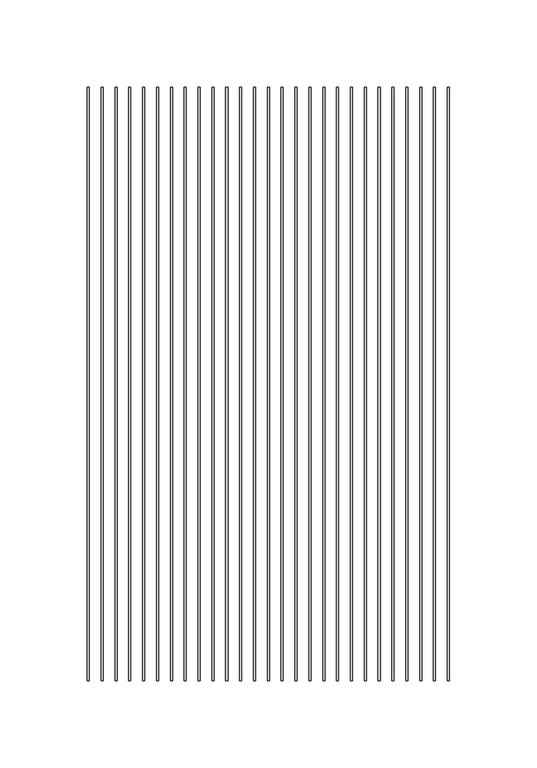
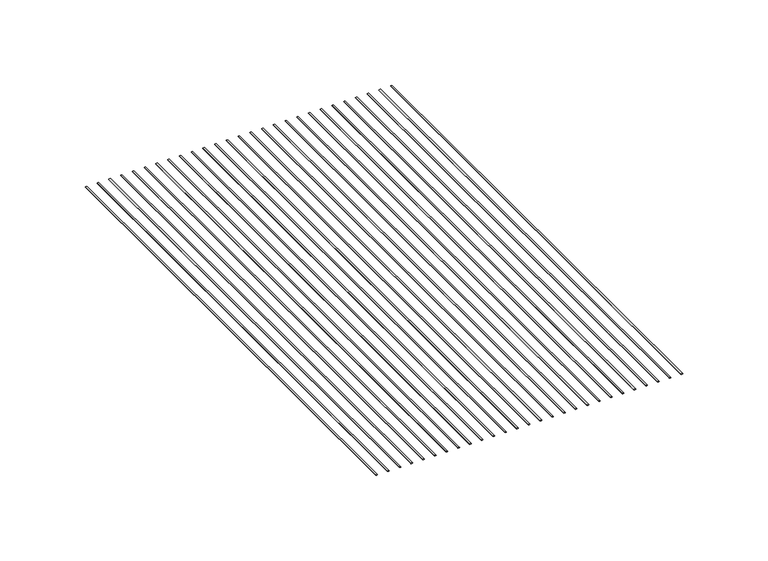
"""IFC4 building model written with IfcOpenShell, lengths in millimetres: proxy geometry, CRAi Generic Model Mesh Piece Face Based : Wider Mesh."""

from ifc_helpers import new_model, si_unit, point, frame, origin, place, context, project, spatial, ellipse_curve, trimmed, source, transform, mapped, element, save
from ifc_brep_helpers import plane_surface, extruded_surface, advanced_brep


def generic_models_b9febd00(model_context):
    return source(origin(), model_context, "Body", "AdvancedBrep", [
        advanced_brep(
        [(-209.3515625, -169.8625, -2.5796875), (-208.1609375, -169.8625, -2.5796875), (-209.3515625, 169.8625, -2.5796875), (-208.1609375, 169.8625, -2.5796875)],
        [
            (0, 1, ellipse_curve(frame((-208.75625, -169.8625, -2.5796875), z_axis=(0.0, -1.0, 0.0), x_axis=(1.0, 0.0, 0.0)), 0.5953125, 0.1984375)),
            (1, 0, ellipse_curve(frame((-208.75625, -169.8625, -2.5796875), z_axis=(0.0, -1.0, 0.0), x_axis=(1.0, 0.0, 0.0)), 0.5953125, 0.1984375)),
            (2, 3, ellipse_curve(frame((-208.75625, 169.8625, -2.5796875), z_axis=(0.0, 1.0, 0.0), x_axis=(1.0, 0.0, 0.0)), 0.5953125, 0.1984375)),
            (3, 2, ellipse_curve(frame((-208.75625, 169.8625, -2.5796875), z_axis=(0.0, 1.0, 0.0), x_axis=(1.0, 0.0, 0.0)), 0.5953125, 0.1984375)),
            (0, 2),
            (3, 1),
        ],
        [
            plane_surface(frame((-208.75625, -169.8625, -2.5796875), z_axis=(0.0, -1.0, 0.0), x_axis=(0.0, 0.0, 1.0))),
            plane_surface(frame((-208.75625, 169.8625, -2.5796875), z_axis=(0.0, 1.0, 0.0), x_axis=(0.0, 0.0, 1.0))),
            extruded_surface(trimmed(ellipse_curve(frame((-208.75625, 169.8625, -2.5796875), z_axis=(0.0, -1.0, 0.0), x_axis=(1.0, 0.0, 0.0)), 0.5953125, 0.1984375), [point((-209.3515625, 169.8625, -2.5796875))], [point((-208.1609375, 169.8625, -2.5796875))], True, "CARTESIAN"), (0.0, -339.725, 0.0), 339.725),
            extruded_surface(trimmed(ellipse_curve(frame((-208.75625, 169.8625, -2.5796875), z_axis=(0.0, -1.0, 0.0), x_axis=(1.0, 0.0, 0.0)), 0.5953125, 0.1984375), [point((-208.1609375, 169.8625, -2.5796875))], [point((-209.3515625, 169.8625, -2.5796875))], True, "CARTESIAN"), (0.0, -339.725, 0.0), 339.725),
        ],
        [
            (0, [[1, 2]]),
            (1, [[3, 4]]),
            (2, [[-1, 5, -4, 6]]),
            (3, [[-2, -6, -3, -5]]),
        ],
    ),
        advanced_brep(
        [(-201.4140625, -169.8625, -2.5796875), (-200.2234375, -169.8625, -2.5796875), (-201.4140625, 169.8625, -2.5796875), (-200.2234375, 169.8625, -2.5796875)],
        [
            (0, 1, ellipse_curve(frame((-200.81875, -169.8625, -2.5796875), z_axis=(0.0, -1.0, 0.0), x_axis=(1.0, 0.0, 0.0)), 0.5953125, 0.1984375)),
            (1, 0, ellipse_curve(frame((-200.81875, -169.8625, -2.5796875), z_axis=(0.0, -1.0, 0.0), x_axis=(1.0, 0.0, 0.0)), 0.5953125, 0.1984375)),
            (2, 3, ellipse_curve(frame((-200.81875, 169.8625, -2.5796875), z_axis=(0.0, 1.0, 0.0), x_axis=(1.0, 0.0, 0.0)), 0.5953125, 0.1984375)),
            (3, 2, ellipse_curve(frame((-200.81875, 169.8625, -2.5796875), z_axis=(0.0, 1.0, 0.0), x_axis=(1.0, 0.0, 0.0)), 0.5953125, 0.1984375)),
            (0, 2),
            (3, 1),
        ],
        [
            plane_surface(frame((-200.81875, -169.8625, -2.5796875), z_axis=(0.0, -1.0, 0.0), x_axis=(0.0, 0.0, 1.0))),
            plane_surface(frame((-200.81875, 169.8625, -2.5796875), z_axis=(0.0, 1.0, 0.0), x_axis=(0.0, 0.0, 1.0))),
            extruded_surface(trimmed(ellipse_curve(frame((-200.81875, 169.8625, -2.5796875), z_axis=(0.0, -1.0, 0.0), x_axis=(1.0, 0.0, 0.0)), 0.5953125, 0.1984375), [point((-201.4140625, 169.8625, -2.5796875))], [point((-200.2234375, 169.8625, -2.5796875))], True, "CARTESIAN"), (0.0, -339.725, 0.0), 339.725),
            extruded_surface(trimmed(ellipse_curve(frame((-200.81875, 169.8625, -2.5796875), z_axis=(0.0, -1.0, 0.0), x_axis=(1.0, 0.0, 0.0)), 0.5953125, 0.1984375), [point((-200.2234375, 169.8625, -2.5796875))], [point((-201.4140625, 169.8625, -2.5796875))], True, "CARTESIAN"), (0.0, -339.725, 0.0), 339.725),
        ],
        [
            (0, [[1, 2]]),
            (1, [[3, 4]]),
            (2, [[-1, 5, -4, 6]]),
            (3, [[-2, -6, -3, -5]]),
        ],
    ),
        advanced_brep(
        [(-193.4765625, -169.8625, -2.5796875), (-192.2859375, -169.8625, -2.5796875), (-193.4765625, 169.8625, -2.5796875), (-192.2859375, 169.8625, -2.5796875)],
        [
            (0, 1, ellipse_curve(frame((-192.88125, -169.8625, -2.5796875), z_axis=(0.0, -1.0, 0.0), x_axis=(1.0, 0.0, 0.0)), 0.5953125, 0.1984375)),
            (1, 0, ellipse_curve(frame((-192.88125, -169.8625, -2.5796875), z_axis=(0.0, -1.0, 0.0), x_axis=(1.0, 0.0, 0.0)), 0.5953125, 0.1984375)),
            (2, 3, ellipse_curve(frame((-192.88125, 169.8625, -2.5796875), z_axis=(0.0, 1.0, 0.0), x_axis=(1.0, 0.0, 0.0)), 0.5953125, 0.1984375)),
            (3, 2, ellipse_curve(frame((-192.88125, 169.8625, -2.5796875), z_axis=(0.0, 1.0, 0.0), x_axis=(1.0, 0.0, 0.0)), 0.5953125, 0.1984375)),
            (0, 2),
            (3, 1),
        ],
        [
            plane_surface(frame((-192.88125, -169.8625, -2.5796875), z_axis=(0.0, -1.0, 0.0), x_axis=(0.0, 0.0, 1.0))),
            plane_surface(frame((-192.88125, 169.8625, -2.5796875), z_axis=(0.0, 1.0, 0.0), x_axis=(0.0, 0.0, 1.0))),
            extruded_surface(trimmed(ellipse_curve(frame((-192.88125, 169.8625, -2.5796875), z_axis=(0.0, -1.0, 0.0), x_axis=(1.0, 0.0, 0.0)), 0.5953125, 0.1984375), [point((-193.4765625, 169.8625, -2.5796875))], [point((-192.2859375, 169.8625, -2.5796875))], True, "CARTESIAN"), (0.0, -339.725, 0.0), 339.725),
            extruded_surface(trimmed(ellipse_curve(frame((-192.88125, 169.8625, -2.5796875), z_axis=(0.0, -1.0, 0.0), x_axis=(1.0, 0.0, 0.0)), 0.5953125, 0.1984375), [point((-192.2859375, 169.8625, -2.5796875))], [point((-193.4765625, 169.8625, -2.5796875))], True, "CARTESIAN"), (0.0, -339.725, 0.0), 339.725),
        ],
        [
            (0, [[1, 2]]),
            (1, [[3, 4]]),
            (2, [[-1, 5, -4, 6]]),
            (3, [[-2, -6, -3, -5]]),
        ],
    ),
        advanced_brep(
        [(-185.5390625, -169.8625, -2.5796875), (-184.3484375, -169.8625, -2.5796875), (-185.5390625, 169.8625, -2.5796875), (-184.3484375, 169.8625, -2.5796875)],
        [
            (0, 1, ellipse_curve(frame((-184.94375, -169.8625, -2.5796875), z_axis=(0.0, -1.0, 0.0), x_axis=(1.0, 0.0, 0.0)), 0.5953125, 0.1984375)),
            (1, 0, ellipse_curve(frame((-184.94375, -169.8625, -2.5796875), z_axis=(0.0, -1.0, 0.0), x_axis=(1.0, 0.0, 0.0)), 0.5953125, 0.1984375)),
            (2, 3, ellipse_curve(frame((-184.94375, 169.8625, -2.5796875), z_axis=(0.0, 1.0, 0.0), x_axis=(1.0, 0.0, 0.0)), 0.5953125, 0.1984375)),
            (3, 2, ellipse_curve(frame((-184.94375, 169.8625, -2.5796875), z_axis=(0.0, 1.0, 0.0), x_axis=(1.0, 0.0, 0.0)), 0.5953125, 0.1984375)),
            (0, 2),
            (3, 1),
        ],
        [
            plane_surface(frame((-184.94375, -169.8625, -2.5796875), z_axis=(0.0, -1.0, 0.0), x_axis=(0.0, 0.0, 1.0))),
            plane_surface(frame((-184.94375, 169.8625, -2.5796875), z_axis=(0.0, 1.0, 0.0), x_axis=(0.0, 0.0, 1.0))),
            extruded_surface(trimmed(ellipse_curve(frame((-184.94375, 169.8625, -2.5796875), z_axis=(0.0, -1.0, 0.0), x_axis=(1.0, 0.0, 0.0)), 0.5953125, 0.1984375), [point((-185.5390625, 169.8625, -2.5796875))], [point((-184.3484375, 169.8625, -2.5796875))], True, "CARTESIAN"), (0.0, -339.725, 0.0), 339.725),
            extruded_surface(trimmed(ellipse_curve(frame((-184.94375, 169.8625, -2.5796875), z_axis=(0.0, -1.0, 0.0), x_axis=(1.0, 0.0, 0.0)), 0.5953125, 0.1984375), [point((-184.3484375, 169.8625, -2.5796875))], [point((-185.5390625, 169.8625, -2.5796875))], True, "CARTESIAN"), (0.0, -339.725, 0.0), 339.725),
        ],
        [
            (0, [[1, 2]]),
            (1, [[3, 4]]),
            (2, [[-1, 5, -4, 6]]),
            (3, [[-2, -6, -3, -5]]),
        ],
    ),
        advanced_brep(
        [(-177.6015625, -169.8625, -2.5796875), (-176.4109375, -169.8625, -2.5796875), (-177.6015625, 169.8625, -2.5796875), (-176.4109375, 169.8625, -2.5796875)],
        [
            (0, 1, ellipse_curve(frame((-177.00625, -169.8625, -2.5796875), z_axis=(0.0, -1.0, 0.0), x_axis=(1.0, 0.0, 0.0)), 0.5953125, 0.1984375)),
            (1, 0, ellipse_curve(frame((-177.00625, -169.8625, -2.5796875), z_axis=(0.0, -1.0, 0.0), x_axis=(1.0, 0.0, 0.0)), 0.5953125, 0.1984375)),
            (2, 3, ellipse_curve(frame((-177.00625, 169.8625, -2.5796875), z_axis=(0.0, 1.0, 0.0), x_axis=(1.0, 0.0, 0.0)), 0.5953125, 0.1984375)),
            (3, 2, ellipse_curve(frame((-177.00625, 169.8625, -2.5796875), z_axis=(0.0, 1.0, 0.0), x_axis=(1.0, 0.0, 0.0)), 0.5953125, 0.1984375)),
            (0, 2),
            (3, 1),
        ],
        [
            plane_surface(frame((-177.00625, -169.8625, -2.5796875), z_axis=(0.0, -1.0, 0.0), x_axis=(0.0, 0.0, 1.0))),
            plane_surface(frame((-177.00625, 169.8625, -2.5796875), z_axis=(0.0, 1.0, 0.0), x_axis=(0.0, 0.0, 1.0))),
            extruded_surface(trimmed(ellipse_curve(frame((-177.00625, 169.8625, -2.5796875), z_axis=(0.0, -1.0, 0.0), x_axis=(1.0, 0.0, 0.0)), 0.5953125, 0.1984375), [point((-177.6015625, 169.8625, -2.5796875))], [point((-176.4109375, 169.8625, -2.5796875))], True, "CARTESIAN"), (0.0, -339.725, 0.0), 339.725),
            extruded_surface(trimmed(ellipse_curve(frame((-177.00625, 169.8625, -2.5796875), z_axis=(0.0, -1.0, 0.0), x_axis=(1.0, 0.0, 0.0)), 0.5953125, 0.1984375), [point((-176.4109375, 169.8625, -2.5796875))], [point((-177.6015625, 169.8625, -2.5796875))], True, "CARTESIAN"), (0.0, -339.725, 0.0), 339.725),
        ],
        [
            (0, [[1, 2]]),
            (1, [[3, 4]]),
            (2, [[-1, 5, -4, 6]]),
            (3, [[-2, -6, -3, -5]]),
        ],
    ),
        advanced_brep(
        [(-169.6640625, -169.8625, -2.5796875), (-168.4734375, -169.8625, -2.5796875), (-169.6640625, 169.8625, -2.5796875), (-168.4734375, 169.8625, -2.5796875)],
        [
            (0, 1, ellipse_curve(frame((-169.06875, -169.8625, -2.5796875), z_axis=(0.0, -1.0, 0.0), x_axis=(1.0, 0.0, 0.0)), 0.5953125, 0.1984375)),
            (1, 0, ellipse_curve(frame((-169.06875, -169.8625, -2.5796875), z_axis=(0.0, -1.0, 0.0), x_axis=(1.0, 0.0, 0.0)), 0.5953125, 0.1984375)),
            (2, 3, ellipse_curve(frame((-169.06875, 169.8625, -2.5796875), z_axis=(0.0, 1.0, 0.0), x_axis=(1.0, 0.0, 0.0)), 0.5953125, 0.1984375)),
            (3, 2, ellipse_curve(frame((-169.06875, 169.8625, -2.5796875), z_axis=(0.0, 1.0, 0.0), x_axis=(1.0, 0.0, 0.0)), 0.5953125, 0.1984375)),
            (0, 2),
            (3, 1),
        ],
        [
            plane_surface(frame((-169.06875, -169.8625, -2.5796875), z_axis=(0.0, -1.0, 0.0), x_axis=(0.0, 0.0, 1.0))),
            plane_surface(frame((-169.06875, 169.8625, -2.5796875), z_axis=(0.0, 1.0, 0.0), x_axis=(0.0, 0.0, 1.0))),
            extruded_surface(trimmed(ellipse_curve(frame((-169.06875, 169.8625, -2.5796875), z_axis=(0.0, -1.0, 0.0), x_axis=(1.0, 0.0, 0.0)), 0.5953125, 0.1984375), [point((-169.6640625, 169.8625, -2.5796875))], [point((-168.4734375, 169.8625, -2.5796875))], True, "CARTESIAN"), (0.0, -339.725, 0.0), 339.725),
            extruded_surface(trimmed(ellipse_curve(frame((-169.06875, 169.8625, -2.5796875), z_axis=(0.0, -1.0, 0.0), x_axis=(1.0, 0.0, 0.0)), 0.5953125, 0.1984375), [point((-168.4734375, 169.8625, -2.5796875))], [point((-169.6640625, 169.8625, -2.5796875))], True, "CARTESIAN"), (0.0, -339.725, 0.0), 339.725),
        ],
        [
            (0, [[1, 2]]),
            (1, [[3, 4]]),
            (2, [[-1, 5, -4, 6]]),
            (3, [[-2, -6, -3, -5]]),
        ],
    ),
        advanced_brep(
        [(-161.7265625, -169.8625, -2.5796875), (-160.5359375, -169.8625, -2.5796875), (-161.7265625, 169.8625, -2.5796875), (-160.5359375, 169.8625, -2.5796875)],
        [
            (0, 1, ellipse_curve(frame((-161.13125, -169.8625, -2.5796875), z_axis=(0.0, -1.0, 0.0), x_axis=(1.0, 0.0, 0.0)), 0.5953125, 0.1984375)),
            (1, 0, ellipse_curve(frame((-161.13125, -169.8625, -2.5796875), z_axis=(0.0, -1.0, 0.0), x_axis=(1.0, 0.0, 0.0)), 0.5953125, 0.1984375)),
            (2, 3, ellipse_curve(frame((-161.13125, 169.8625, -2.5796875), z_axis=(0.0, 1.0, 0.0), x_axis=(1.0, 0.0, 0.0)), 0.5953125, 0.1984375)),
            (3, 2, ellipse_curve(frame((-161.13125, 169.8625, -2.5796875), z_axis=(0.0, 1.0, 0.0), x_axis=(1.0, 0.0, 0.0)), 0.5953125, 0.1984375)),
            (0, 2),
            (3, 1),
        ],
        [
            plane_surface(frame((-161.13125, -169.8625, -2.5796875), z_axis=(0.0, -1.0, 0.0), x_axis=(0.0, 0.0, 1.0))),
            plane_surface(frame((-161.13125, 169.8625, -2.5796875), z_axis=(0.0, 1.0, 0.0), x_axis=(0.0, 0.0, 1.0))),
            extruded_surface(trimmed(ellipse_curve(frame((-161.13125, 169.8625, -2.5796875), z_axis=(0.0, -1.0, 0.0), x_axis=(1.0, 0.0, 0.0)), 0.5953125, 0.1984375), [point((-161.7265625, 169.8625, -2.5796875))], [point((-160.5359375, 169.8625, -2.5796875))], True, "CARTESIAN"), (0.0, -339.725, 0.0), 339.725),
            extruded_surface(trimmed(ellipse_curve(frame((-161.13125, 169.8625, -2.5796875), z_axis=(0.0, -1.0, 0.0), x_axis=(1.0, 0.0, 0.0)), 0.5953125, 0.1984375), [point((-160.5359375, 169.8625, -2.5796875))], [point((-161.7265625, 169.8625, -2.5796875))], True, "CARTESIAN"), (0.0, -339.725, 0.0), 339.725),
        ],
        [
            (0, [[1, 2]]),
            (1, [[3, 4]]),
            (2, [[-1, 5, -4, 6]]),
            (3, [[-2, -6, -3, -5]]),
        ],
    ),
        advanced_brep(
        [(-153.7890625, -169.8625, -2.5796875), (-152.5984375, -169.8625, -2.5796875), (-153.7890625, 169.8625, -2.5796875), (-152.5984375, 169.8625, -2.5796875)],
        [
            (0, 1, ellipse_curve(frame((-153.19375, -169.8625, -2.5796875), z_axis=(0.0, -1.0, 0.0), x_axis=(1.0, 0.0, 0.0)), 0.5953125, 0.1984375)),
            (1, 0, ellipse_curve(frame((-153.19375, -169.8625, -2.5796875), z_axis=(0.0, -1.0, 0.0), x_axis=(1.0, 0.0, 0.0)), 0.5953125, 0.1984375)),
            (2, 3, ellipse_curve(frame((-153.19375, 169.8625, -2.5796875), z_axis=(0.0, 1.0, 0.0), x_axis=(1.0, 0.0, 0.0)), 0.5953125, 0.1984375)),
            (3, 2, ellipse_curve(frame((-153.19375, 169.8625, -2.5796875), z_axis=(0.0, 1.0, 0.0), x_axis=(1.0, 0.0, 0.0)), 0.5953125, 0.1984375)),
            (0, 2),
            (3, 1),
        ],
        [
            plane_surface(frame((-153.19375, -169.8625, -2.5796875), z_axis=(0.0, -1.0, 0.0), x_axis=(0.0, 0.0, 1.0))),
            plane_surface(frame((-153.19375, 169.8625, -2.5796875), z_axis=(0.0, 1.0, 0.0), x_axis=(0.0, 0.0, 1.0))),
            extruded_surface(trimmed(ellipse_curve(frame((-153.19375, 169.8625, -2.5796875), z_axis=(0.0, -1.0, 0.0), x_axis=(1.0, 0.0, 0.0)), 0.5953125, 0.1984375), [point((-153.7890625, 169.8625, -2.5796875))], [point((-152.5984375, 169.8625, -2.5796875))], True, "CARTESIAN"), (0.0, -339.725, 0.0), 339.725),
            extruded_surface(trimmed(ellipse_curve(frame((-153.19375, 169.8625, -2.5796875), z_axis=(0.0, -1.0, 0.0), x_axis=(1.0, 0.0, 0.0)), 0.5953125, 0.1984375), [point((-152.5984375, 169.8625, -2.5796875))], [point((-153.7890625, 169.8625, -2.5796875))], True, "CARTESIAN"), (0.0, -339.725, 0.0), 339.725),
        ],
        [
            (0, [[1, 2]]),
            (1, [[3, 4]]),
            (2, [[-1, 5, -4, 6]]),
            (3, [[-2, -6, -3, -5]]),
        ],
    ),
        advanced_brep(
        [(-145.8515625, -169.8625, -2.5796875), (-144.6609375, -169.8625, -2.5796875), (-145.8515625, 169.8625, -2.5796875), (-144.6609375, 169.8625, -2.5796875)],
        [
            (0, 1, ellipse_curve(frame((-145.25625, -169.8625, -2.5796875), z_axis=(0.0, -1.0, 0.0), x_axis=(1.0, 0.0, 0.0)), 0.5953125, 0.1984375)),
            (1, 0, ellipse_curve(frame((-145.25625, -169.8625, -2.5796875), z_axis=(0.0, -1.0, 0.0), x_axis=(1.0, 0.0, 0.0)), 0.5953125, 0.1984375)),
            (2, 3, ellipse_curve(frame((-145.25625, 169.8625, -2.5796875), z_axis=(0.0, 1.0, 0.0), x_axis=(1.0, 0.0, 0.0)), 0.5953125, 0.1984375)),
            (3, 2, ellipse_curve(frame((-145.25625, 169.8625, -2.5796875), z_axis=(0.0, 1.0, 0.0), x_axis=(1.0, 0.0, 0.0)), 0.5953125, 0.1984375)),
            (0, 2),
            (3, 1),
        ],
        [
            plane_surface(frame((-145.25625, -169.8625, -2.5796875), z_axis=(0.0, -1.0, 0.0), x_axis=(0.0, 0.0, 1.0))),
            plane_surface(frame((-145.25625, 169.8625, -2.5796875), z_axis=(0.0, 1.0, 0.0), x_axis=(0.0, 0.0, 1.0))),
            extruded_surface(trimmed(ellipse_curve(frame((-145.25625, 169.8625, -2.5796875), z_axis=(0.0, -1.0, 0.0), x_axis=(1.0, 0.0, 0.0)), 0.5953125, 0.1984375), [point((-145.8515625, 169.8625, -2.5796875))], [point((-144.6609375, 169.8625, -2.5796875))], True, "CARTESIAN"), (0.0, -339.725, 0.0), 339.725),
            extruded_surface(trimmed(ellipse_curve(frame((-145.25625, 169.8625, -2.5796875), z_axis=(0.0, -1.0, 0.0), x_axis=(1.0, 0.0, 0.0)), 0.5953125, 0.1984375), [point((-144.6609375, 169.8625, -2.5796875))], [point((-145.8515625, 169.8625, -2.5796875))], True, "CARTESIAN"), (0.0, -339.725, 0.0), 339.725),
        ],
        [
            (0, [[1, 2]]),
            (1, [[3, 4]]),
            (2, [[-1, 5, -4, 6]]),
            (3, [[-2, -6, -3, -5]]),
        ],
    ),
        advanced_brep(
        [(-137.9140625, -169.8625, -2.5796875), (-136.7234375, -169.8625, -2.5796875), (-137.9140625, 169.8625, -2.5796875), (-136.7234375, 169.8625, -2.5796875)],
        [
            (0, 1, ellipse_curve(frame((-137.31875, -169.8625, -2.5796875), z_axis=(0.0, -1.0, 0.0), x_axis=(1.0, 0.0, 0.0)), 0.5953125, 0.1984375)),
            (1, 0, ellipse_curve(frame((-137.31875, -169.8625, -2.5796875), z_axis=(0.0, -1.0, 0.0), x_axis=(1.0, 0.0, 0.0)), 0.5953125, 0.1984375)),
            (2, 3, ellipse_curve(frame((-137.31875, 169.8625, -2.5796875), z_axis=(0.0, 1.0, 0.0), x_axis=(1.0, 0.0, 0.0)), 0.5953125, 0.1984375)),
            (3, 2, ellipse_curve(frame((-137.31875, 169.8625, -2.5796875), z_axis=(0.0, 1.0, 0.0), x_axis=(1.0, 0.0, 0.0)), 0.5953125, 0.1984375)),
            (0, 2),
            (3, 1),
        ],
        [
            plane_surface(frame((-137.31875, -169.8625, -2.5796875), z_axis=(0.0, -1.0, 0.0), x_axis=(0.0, 0.0, 1.0))),
            plane_surface(frame((-137.31875, 169.8625, -2.5796875), z_axis=(0.0, 1.0, 0.0), x_axis=(0.0, 0.0, 1.0))),
            extruded_surface(trimmed(ellipse_curve(frame((-137.31875, 169.8625, -2.5796875), z_axis=(0.0, -1.0, 0.0), x_axis=(1.0, 0.0, 0.0)), 0.5953125, 0.1984375), [point((-137.9140625, 169.8625, -2.5796875))], [point((-136.7234375, 169.8625, -2.5796875))], True, "CARTESIAN"), (0.0, -339.725, 0.0), 339.725),
            extruded_surface(trimmed(ellipse_curve(frame((-137.31875, 169.8625, -2.5796875), z_axis=(0.0, -1.0, 0.0), x_axis=(1.0, 0.0, 0.0)), 0.5953125, 0.1984375), [point((-136.7234375, 169.8625, -2.5796875))], [point((-137.9140625, 169.8625, -2.5796875))], True, "CARTESIAN"), (0.0, -339.725, 0.0), 339.725),
        ],
        [
            (0, [[1, 2]]),
            (1, [[3, 4]]),
            (2, [[-1, 5, -4, 6]]),
            (3, [[-2, -6, -3, -5]]),
        ],
    ),
        advanced_brep(
        [(-129.9765625, -169.8625, -2.5796875), (-128.7859375, -169.8625, -2.5796875), (-129.9765625, 169.8625, -2.5796875), (-128.7859375, 169.8625, -2.5796875)],
        [
            (0, 1, ellipse_curve(frame((-129.38125, -169.8625, -2.5796875), z_axis=(0.0, -1.0, 0.0), x_axis=(1.0, 0.0, 0.0)), 0.5953125, 0.1984375)),
            (1, 0, ellipse_curve(frame((-129.38125, -169.8625, -2.5796875), z_axis=(0.0, -1.0, 0.0), x_axis=(1.0, 0.0, 0.0)), 0.5953125, 0.1984375)),
            (2, 3, ellipse_curve(frame((-129.38125, 169.8625, -2.5796875), z_axis=(0.0, 1.0, 0.0), x_axis=(1.0, 0.0, 0.0)), 0.5953125, 0.1984375)),
            (3, 2, ellipse_curve(frame((-129.38125, 169.8625, -2.5796875), z_axis=(0.0, 1.0, 0.0), x_axis=(1.0, 0.0, 0.0)), 0.5953125, 0.1984375)),
            (0, 2),
            (3, 1),
        ],
        [
            plane_surface(frame((-129.38125, -169.8625, -2.5796875), z_axis=(0.0, -1.0, 0.0), x_axis=(0.0, 0.0, 1.0))),
            plane_surface(frame((-129.38125, 169.8625, -2.5796875), z_axis=(0.0, 1.0, 0.0), x_axis=(0.0, 0.0, 1.0))),
            extruded_surface(trimmed(ellipse_curve(frame((-129.38125, 169.8625, -2.5796875), z_axis=(0.0, -1.0, 0.0), x_axis=(1.0, 0.0, 0.0)), 0.5953125, 0.1984375), [point((-129.9765625, 169.8625, -2.5796875))], [point((-128.7859375, 169.8625, -2.5796875))], True, "CARTESIAN"), (0.0, -339.725, 0.0), 339.725),
            extruded_surface(trimmed(ellipse_curve(frame((-129.38125, 169.8625, -2.5796875), z_axis=(0.0, -1.0, 0.0), x_axis=(1.0, 0.0, 0.0)), 0.5953125, 0.1984375), [point((-128.7859375, 169.8625, -2.5796875))], [point((-129.9765625, 169.8625, -2.5796875))], True, "CARTESIAN"), (0.0, -339.725, 0.0), 339.725),
        ],
        [
            (0, [[1, 2]]),
            (1, [[3, 4]]),
            (2, [[-1, 5, -4, 6]]),
            (3, [[-2, -6, -3, -5]]),
        ],
    ),
        advanced_brep(
        [(-122.0390625, -169.8625, -2.5796875), (-120.8484375, -169.8625, -2.5796875), (-122.0390625, 169.8625, -2.5796875), (-120.8484375, 169.8625, -2.5796875)],
        [
            (0, 1, ellipse_curve(frame((-121.44375, -169.8625, -2.5796875), z_axis=(0.0, -1.0, 0.0), x_axis=(1.0, 0.0, 0.0)), 0.5953125, 0.1984375)),
            (1, 0, ellipse_curve(frame((-121.44375, -169.8625, -2.5796875), z_axis=(0.0, -1.0, 0.0), x_axis=(1.0, 0.0, 0.0)), 0.5953125, 0.1984375)),
            (2, 3, ellipse_curve(frame((-121.44375, 169.8625, -2.5796875), z_axis=(0.0, 1.0, 0.0), x_axis=(1.0, 0.0, 0.0)), 0.5953125, 0.1984375)),
            (3, 2, ellipse_curve(frame((-121.44375, 169.8625, -2.5796875), z_axis=(0.0, 1.0, 0.0), x_axis=(1.0, 0.0, 0.0)), 0.5953125, 0.1984375)),
            (0, 2),
            (3, 1),
        ],
        [
            plane_surface(frame((-121.44375, -169.8625, -2.5796875), z_axis=(0.0, -1.0, 0.0), x_axis=(0.0, 0.0, 1.0))),
            plane_surface(frame((-121.44375, 169.8625, -2.5796875), z_axis=(0.0, 1.0, 0.0), x_axis=(0.0, 0.0, 1.0))),
            extruded_surface(trimmed(ellipse_curve(frame((-121.44375, 169.8625, -2.5796875), z_axis=(0.0, -1.0, 0.0), x_axis=(1.0, 0.0, 0.0)), 0.5953125, 0.1984375), [point((-122.0390625, 169.8625, -2.5796875))], [point((-120.8484375, 169.8625, -2.5796875))], True, "CARTESIAN"), (0.0, -339.725, 0.0), 339.725),
            extruded_surface(trimmed(ellipse_curve(frame((-121.44375, 169.8625, -2.5796875), z_axis=(0.0, -1.0, 0.0), x_axis=(1.0, 0.0, 0.0)), 0.5953125, 0.1984375), [point((-120.8484375, 169.8625, -2.5796875))], [point((-122.0390625, 169.8625, -2.5796875))], True, "CARTESIAN"), (0.0, -339.725, 0.0), 339.725),
        ],
        [
            (0, [[1, 2]]),
            (1, [[3, 4]]),
            (2, [[-1, 5, -4, 6]]),
            (3, [[-2, -6, -3, -5]]),
        ],
    ),
        advanced_brep(
        [(-114.1015625, -169.8625, -2.5796875), (-112.9109375, -169.8625, -2.5796875), (-114.1015625, 169.8625, -2.5796875), (-112.9109375, 169.8625, -2.5796875)],
        [
            (0, 1, ellipse_curve(frame((-113.50625, -169.8625, -2.5796875), z_axis=(0.0, -1.0, 0.0), x_axis=(1.0, 0.0, 0.0)), 0.5953125, 0.1984375)),
            (1, 0, ellipse_curve(frame((-113.50625, -169.8625, -2.5796875), z_axis=(0.0, -1.0, 0.0), x_axis=(1.0, 0.0, 0.0)), 0.5953125, 0.1984375)),
            (2, 3, ellipse_curve(frame((-113.50625, 169.8625, -2.5796875), z_axis=(0.0, 1.0, 0.0), x_axis=(1.0, 0.0, 0.0)), 0.5953125, 0.1984375)),
            (3, 2, ellipse_curve(frame((-113.50625, 169.8625, -2.5796875), z_axis=(0.0, 1.0, 0.0), x_axis=(1.0, 0.0, 0.0)), 0.5953125, 0.1984375)),
            (0, 2),
            (3, 1),
        ],
        [
            plane_surface(frame((-113.50625, -169.8625, -2.5796875), z_axis=(0.0, -1.0, 0.0), x_axis=(0.0, 0.0, 1.0))),
            plane_surface(frame((-113.50625, 169.8625, -2.5796875), z_axis=(0.0, 1.0, 0.0), x_axis=(0.0, 0.0, 1.0))),
            extruded_surface(trimmed(ellipse_curve(frame((-113.50625, 169.8625, -2.5796875), z_axis=(0.0, -1.0, 0.0), x_axis=(1.0, 0.0, 0.0)), 0.5953125, 0.1984375), [point((-114.1015625, 169.8625, -2.5796875))], [point((-112.9109375, 169.8625, -2.5796875))], True, "CARTESIAN"), (0.0, -339.725, 0.0), 339.725),
            extruded_surface(trimmed(ellipse_curve(frame((-113.50625, 169.8625, -2.5796875), z_axis=(0.0, -1.0, 0.0), x_axis=(1.0, 0.0, 0.0)), 0.5953125, 0.1984375), [point((-112.9109375, 169.8625, -2.5796875))], [point((-114.1015625, 169.8625, -2.5796875))], True, "CARTESIAN"), (0.0, -339.725, 0.0), 339.725),
        ],
        [
            (0, [[1, 2]]),
            (1, [[3, 4]]),
            (2, [[-1, 5, -4, 6]]),
            (3, [[-2, -6, -3, -5]]),
        ],
    ),
        advanced_brep(
        [(-106.1640625, -169.8625, -2.5796875), (-104.9734375, -169.8625, -2.5796875), (-106.1640625, 169.8625, -2.5796875), (-104.9734375, 169.8625, -2.5796875)],
        [
            (0, 1, ellipse_curve(frame((-105.56875, -169.8625, -2.5796875), z_axis=(0.0, -1.0, 0.0), x_axis=(1.0, 0.0, 0.0)), 0.5953125, 0.1984375)),
            (1, 0, ellipse_curve(frame((-105.56875, -169.8625, -2.5796875), z_axis=(0.0, -1.0, 0.0), x_axis=(1.0, 0.0, 0.0)), 0.5953125, 0.1984375)),
            (2, 3, ellipse_curve(frame((-105.56875, 169.8625, -2.5796875), z_axis=(0.0, 1.0, 0.0), x_axis=(1.0, 0.0, 0.0)), 0.5953125, 0.1984375)),
            (3, 2, ellipse_curve(frame((-105.56875, 169.8625, -2.5796875), z_axis=(0.0, 1.0, 0.0), x_axis=(1.0, 0.0, 0.0)), 0.5953125, 0.1984375)),
            (0, 2),
            (3, 1),
        ],
        [
            plane_surface(frame((-105.56875, -169.8625, -2.5796875), z_axis=(0.0, -1.0, 0.0), x_axis=(0.0, 0.0, 1.0))),
            plane_surface(frame((-105.56875, 169.8625, -2.5796875), z_axis=(0.0, 1.0, 0.0), x_axis=(0.0, 0.0, 1.0))),
            extruded_surface(trimmed(ellipse_curve(frame((-105.56875, 169.8625, -2.5796875), z_axis=(0.0, -1.0, 0.0), x_axis=(1.0, 0.0, 0.0)), 0.5953125, 0.1984375), [point((-106.1640625, 169.8625, -2.5796875))], [point((-104.9734375, 169.8625, -2.5796875))], True, "CARTESIAN"), (0.0, -339.725, 0.0), 339.725),
            extruded_surface(trimmed(ellipse_curve(frame((-105.56875, 169.8625, -2.5796875), z_axis=(0.0, -1.0, 0.0), x_axis=(1.0, 0.0, 0.0)), 0.5953125, 0.1984375), [point((-104.9734375, 169.8625, -2.5796875))], [point((-106.1640625, 169.8625, -2.5796875))], True, "CARTESIAN"), (0.0, -339.725, 0.0), 339.725),
        ],
        [
            (0, [[1, 2]]),
            (1, [[3, 4]]),
            (2, [[-1, 5, -4, 6]]),
            (3, [[-2, -6, -3, -5]]),
        ],
    ),
        advanced_brep(
        [(-98.2265625, -169.8625, -2.5796875), (-97.0359375, -169.8625, -2.5796875), (-98.2265625, 169.8625, -2.5796875), (-97.0359375, 169.8625, -2.5796875)],
        [
            (0, 1, ellipse_curve(frame((-97.63125, -169.8625, -2.5796875), z_axis=(0.0, -1.0, 0.0), x_axis=(1.0, 0.0, 0.0)), 0.5953125, 0.1984375)),
            (1, 0, ellipse_curve(frame((-97.63125, -169.8625, -2.5796875), z_axis=(0.0, -1.0, 0.0), x_axis=(1.0, 0.0, 0.0)), 0.5953125, 0.1984375)),
            (2, 3, ellipse_curve(frame((-97.63125, 169.8625, -2.5796875), z_axis=(0.0, 1.0, 0.0), x_axis=(1.0, 0.0, 0.0)), 0.5953125, 0.1984375)),
            (3, 2, ellipse_curve(frame((-97.63125, 169.8625, -2.5796875), z_axis=(0.0, 1.0, 0.0), x_axis=(1.0, 0.0, 0.0)), 0.5953125, 0.1984375)),
            (0, 2),
            (3, 1),
        ],
        [
            plane_surface(frame((-97.63125, -169.8625, -2.5796875), z_axis=(0.0, -1.0, 0.0), x_axis=(0.0, 0.0, 1.0))),
            plane_surface(frame((-97.63125, 169.8625, -2.5796875), z_axis=(0.0, 1.0, 0.0), x_axis=(0.0, 0.0, 1.0))),
            extruded_surface(trimmed(ellipse_curve(frame((-97.63125, 169.8625, -2.5796875), z_axis=(0.0, -1.0, 0.0), x_axis=(1.0, 0.0, 0.0)), 0.5953125, 0.1984375), [point((-98.2265625, 169.8625, -2.5796875))], [point((-97.0359375, 169.8625, -2.5796875))], True, "CARTESIAN"), (0.0, -339.725, 0.0), 339.725),
            extruded_surface(trimmed(ellipse_curve(frame((-97.63125, 169.8625, -2.5796875), z_axis=(0.0, -1.0, 0.0), x_axis=(1.0, 0.0, 0.0)), 0.5953125, 0.1984375), [point((-97.0359375, 169.8625, -2.5796875))], [point((-98.2265625, 169.8625, -2.5796875))], True, "CARTESIAN"), (0.0, -339.725, 0.0), 339.725),
        ],
        [
            (0, [[1, 2]]),
            (1, [[3, 4]]),
            (2, [[-1, 5, -4, 6]]),
            (3, [[-2, -6, -3, -5]]),
        ],
    ),
        advanced_brep(
        [(-90.2890625, -169.8625, -2.5796875), (-89.0984375, -169.8625, -2.5796875), (-90.2890625, 169.8625, -2.5796875), (-89.0984375, 169.8625, -2.5796875)],
        [
            (0, 1, ellipse_curve(frame((-89.69375, -169.8625, -2.5796875), z_axis=(0.0, -1.0, 0.0), x_axis=(1.0, 0.0, 0.0)), 0.5953125, 0.1984375)),
            (1, 0, ellipse_curve(frame((-89.69375, -169.8625, -2.5796875), z_axis=(0.0, -1.0, 0.0), x_axis=(1.0, 0.0, 0.0)), 0.5953125, 0.1984375)),
            (2, 3, ellipse_curve(frame((-89.69375, 169.8625, -2.5796875), z_axis=(0.0, 1.0, 0.0), x_axis=(1.0, 0.0, 0.0)), 0.5953125, 0.1984375)),
            (3, 2, ellipse_curve(frame((-89.69375, 169.8625, -2.5796875), z_axis=(0.0, 1.0, 0.0), x_axis=(1.0, 0.0, 0.0)), 0.5953125, 0.1984375)),
            (0, 2),
            (3, 1),
        ],
        [
            plane_surface(frame((-89.69375, -169.8625, -2.5796875), z_axis=(0.0, -1.0, 0.0), x_axis=(0.0, 0.0, 1.0))),
            plane_surface(frame((-89.69375, 169.8625, -2.5796875), z_axis=(0.0, 1.0, 0.0), x_axis=(0.0, 0.0, 1.0))),
            extruded_surface(trimmed(ellipse_curve(frame((-89.69375, 169.8625, -2.5796875), z_axis=(0.0, -1.0, 0.0), x_axis=(1.0, 0.0, 0.0)), 0.5953125, 0.1984375), [point((-90.2890625, 169.8625, -2.5796875))], [point((-89.0984375, 169.8625, -2.5796875))], True, "CARTESIAN"), (0.0, -339.725, 0.0), 339.725),
            extruded_surface(trimmed(ellipse_curve(frame((-89.69375, 169.8625, -2.5796875), z_axis=(0.0, -1.0, 0.0), x_axis=(1.0, 0.0, 0.0)), 0.5953125, 0.1984375), [point((-89.0984375, 169.8625, -2.5796875))], [point((-90.2890625, 169.8625, -2.5796875))], True, "CARTESIAN"), (0.0, -339.725, 0.0), 339.725),
        ],
        [
            (0, [[1, 2]]),
            (1, [[3, 4]]),
            (2, [[-1, 5, -4, 6]]),
            (3, [[-2, -6, -3, -5]]),
        ],
    ),
        advanced_brep(
        [(-82.3515625, -169.8625, -2.5796875), (-81.1609375, -169.8625, -2.5796875), (-82.3515625, 169.8625, -2.5796875), (-81.1609375, 169.8625, -2.5796875)],
        [
            (0, 1, ellipse_curve(frame((-81.75625, -169.8625, -2.5796875), z_axis=(0.0, -1.0, 0.0), x_axis=(1.0, 0.0, 0.0)), 0.5953125, 0.1984375)),
            (1, 0, ellipse_curve(frame((-81.75625, -169.8625, -2.5796875), z_axis=(0.0, -1.0, 0.0), x_axis=(1.0, 0.0, 0.0)), 0.5953125, 0.1984375)),
            (2, 3, ellipse_curve(frame((-81.75625, 169.8625, -2.5796875), z_axis=(0.0, 1.0, 0.0), x_axis=(1.0, 0.0, 0.0)), 0.5953125, 0.1984375)),
            (3, 2, ellipse_curve(frame((-81.75625, 169.8625, -2.5796875), z_axis=(0.0, 1.0, 0.0), x_axis=(1.0, 0.0, 0.0)), 0.5953125, 0.1984375)),
            (0, 2),
            (3, 1),
        ],
        [
            plane_surface(frame((-81.75625, -169.8625, -2.5796875), z_axis=(0.0, -1.0, 0.0), x_axis=(0.0, 0.0, 1.0))),
            plane_surface(frame((-81.75625, 169.8625, -2.5796875), z_axis=(0.0, 1.0, 0.0), x_axis=(0.0, 0.0, 1.0))),
            extruded_surface(trimmed(ellipse_curve(frame((-81.75625, 169.8625, -2.5796875), z_axis=(0.0, -1.0, 0.0), x_axis=(1.0, 0.0, 0.0)), 0.5953125, 0.1984375), [point((-82.3515625, 169.8625, -2.5796875))], [point((-81.1609375, 169.8625, -2.5796875))], True, "CARTESIAN"), (0.0, -339.725, 0.0), 339.725),
            extruded_surface(trimmed(ellipse_curve(frame((-81.75625, 169.8625, -2.5796875), z_axis=(0.0, -1.0, 0.0), x_axis=(1.0, 0.0, 0.0)), 0.5953125, 0.1984375), [point((-81.1609375, 169.8625, -2.5796875))], [point((-82.3515625, 169.8625, -2.5796875))], True, "CARTESIAN"), (0.0, -339.725, 0.0), 339.725),
        ],
        [
            (0, [[1, 2]]),
            (1, [[3, 4]]),
            (2, [[-1, 5, -4, 6]]),
            (3, [[-2, -6, -3, -5]]),
        ],
    ),
        advanced_brep(
        [(-74.4140625, -169.8625, -2.5796875), (-73.2234375, -169.8625, -2.5796875), (-74.4140625, 169.8625, -2.5796875), (-73.2234375, 169.8625, -2.5796875)],
        [
            (0, 1, ellipse_curve(frame((-73.81875, -169.8625, -2.5796875), z_axis=(0.0, -1.0, 0.0), x_axis=(1.0, 0.0, 0.0)), 0.5953125, 0.1984375)),
            (1, 0, ellipse_curve(frame((-73.81875, -169.8625, -2.5796875), z_axis=(0.0, -1.0, 0.0), x_axis=(1.0, 0.0, 0.0)), 0.5953125, 0.1984375)),
            (2, 3, ellipse_curve(frame((-73.81875, 169.8625, -2.5796875), z_axis=(0.0, 1.0, 0.0), x_axis=(1.0, 0.0, 0.0)), 0.5953125, 0.1984375)),
            (3, 2, ellipse_curve(frame((-73.81875, 169.8625, -2.5796875), z_axis=(0.0, 1.0, 0.0), x_axis=(1.0, 0.0, 0.0)), 0.5953125, 0.1984375)),
            (0, 2),
            (3, 1),
        ],
        [
            plane_surface(frame((-73.81875, -169.8625, -2.5796875), z_axis=(0.0, -1.0, 0.0), x_axis=(0.0, 0.0, 1.0))),
            plane_surface(frame((-73.81875, 169.8625, -2.5796875), z_axis=(0.0, 1.0, 0.0), x_axis=(0.0, 0.0, 1.0))),
            extruded_surface(trimmed(ellipse_curve(frame((-73.81875, 169.8625, -2.5796875), z_axis=(0.0, -1.0, 0.0), x_axis=(1.0, 0.0, 0.0)), 0.5953125, 0.1984375), [point((-74.4140625, 169.8625, -2.5796875))], [point((-73.2234375, 169.8625, -2.5796875))], True, "CARTESIAN"), (0.0, -339.725, 0.0), 339.725),
            extruded_surface(trimmed(ellipse_curve(frame((-73.81875, 169.8625, -2.5796875), z_axis=(0.0, -1.0, 0.0), x_axis=(1.0, 0.0, 0.0)), 0.5953125, 0.1984375), [point((-73.2234375, 169.8625, -2.5796875))], [point((-74.4140625, 169.8625, -2.5796875))], True, "CARTESIAN"), (0.0, -339.725, 0.0), 339.725),
        ],
        [
            (0, [[1, 2]]),
            (1, [[3, 4]]),
            (2, [[-1, 5, -4, 6]]),
            (3, [[-2, -6, -3, -5]]),
        ],
    ),
        advanced_brep(
        [(-66.4765625, -169.8625, -2.5796875), (-65.2859375, -169.8625, -2.5796875), (-66.4765625, 169.8625, -2.5796875), (-65.2859375, 169.8625, -2.5796875)],
        [
            (0, 1, ellipse_curve(frame((-65.88125, -169.8625, -2.5796875), z_axis=(0.0, -1.0, 0.0), x_axis=(1.0, 0.0, 0.0)), 0.5953125, 0.1984375)),
            (1, 0, ellipse_curve(frame((-65.88125, -169.8625, -2.5796875), z_axis=(0.0, -1.0, 0.0), x_axis=(1.0, 0.0, 0.0)), 0.5953125, 0.1984375)),
            (2, 3, ellipse_curve(frame((-65.88125, 169.8625, -2.5796875), z_axis=(0.0, 1.0, 0.0), x_axis=(1.0, 0.0, 0.0)), 0.5953125, 0.1984375)),
            (3, 2, ellipse_curve(frame((-65.88125, 169.8625, -2.5796875), z_axis=(0.0, 1.0, 0.0), x_axis=(1.0, 0.0, 0.0)), 0.5953125, 0.1984375)),
            (0, 2),
            (3, 1),
        ],
        [
            plane_surface(frame((-65.88125, -169.8625, -2.5796875), z_axis=(0.0, -1.0, 0.0), x_axis=(0.0, 0.0, 1.0))),
            plane_surface(frame((-65.88125, 169.8625, -2.5796875), z_axis=(0.0, 1.0, 0.0), x_axis=(0.0, 0.0, 1.0))),
            extruded_surface(trimmed(ellipse_curve(frame((-65.88125, 169.8625, -2.5796875), z_axis=(0.0, -1.0, 0.0), x_axis=(1.0, 0.0, 0.0)), 0.5953125, 0.1984375), [point((-66.4765625, 169.8625, -2.5796875))], [point((-65.2859375, 169.8625, -2.5796875))], True, "CARTESIAN"), (0.0, -339.725, 0.0), 339.725),
            extruded_surface(trimmed(ellipse_curve(frame((-65.88125, 169.8625, -2.5796875), z_axis=(0.0, -1.0, 0.0), x_axis=(1.0, 0.0, 0.0)), 0.5953125, 0.1984375), [point((-65.2859375, 169.8625, -2.5796875))], [point((-66.4765625, 169.8625, -2.5796875))], True, "CARTESIAN"), (0.0, -339.725, 0.0), 339.725),
        ],
        [
            (0, [[1, 2]]),
            (1, [[3, 4]]),
            (2, [[-1, 5, -4, 6]]),
            (3, [[-2, -6, -3, -5]]),
        ],
    ),
        advanced_brep(
        [(-58.5390625, -169.8625, -2.5796875), (-57.3484375, -169.8625, -2.5796875), (-58.5390625, 169.8625, -2.5796875), (-57.3484375, 169.8625, -2.5796875)],
        [
            (0, 1, ellipse_curve(frame((-57.94375, -169.8625, -2.5796875), z_axis=(0.0, -1.0, 0.0), x_axis=(1.0, 0.0, 0.0)), 0.5953125, 0.1984375)),
            (1, 0, ellipse_curve(frame((-57.94375, -169.8625, -2.5796875), z_axis=(0.0, -1.0, 0.0), x_axis=(1.0, 0.0, 0.0)), 0.5953125, 0.1984375)),
            (2, 3, ellipse_curve(frame((-57.94375, 169.8625, -2.5796875), z_axis=(0.0, 1.0, 0.0), x_axis=(1.0, 0.0, 0.0)), 0.5953125, 0.1984375)),
            (3, 2, ellipse_curve(frame((-57.94375, 169.8625, -2.5796875), z_axis=(0.0, 1.0, 0.0), x_axis=(1.0, 0.0, 0.0)), 0.5953125, 0.1984375)),
            (0, 2),
            (3, 1),
        ],
        [
            plane_surface(frame((-57.94375, -169.8625, -2.5796875), z_axis=(0.0, -1.0, 0.0), x_axis=(0.0, 0.0, 1.0))),
            plane_surface(frame((-57.94375, 169.8625, -2.5796875), z_axis=(0.0, 1.0, 0.0), x_axis=(0.0, 0.0, 1.0))),
            extruded_surface(trimmed(ellipse_curve(frame((-57.94375, 169.8625, -2.5796875), z_axis=(0.0, -1.0, 0.0), x_axis=(1.0, 0.0, 0.0)), 0.5953125, 0.1984375), [point((-58.5390625, 169.8625, -2.5796875))], [point((-57.3484375, 169.8625, -2.5796875))], True, "CARTESIAN"), (0.0, -339.725, 0.0), 339.725),
            extruded_surface(trimmed(ellipse_curve(frame((-57.94375, 169.8625, -2.5796875), z_axis=(0.0, -1.0, 0.0), x_axis=(1.0, 0.0, 0.0)), 0.5953125, 0.1984375), [point((-57.3484375, 169.8625, -2.5796875))], [point((-58.5390625, 169.8625, -2.5796875))], True, "CARTESIAN"), (0.0, -339.725, 0.0), 339.725),
        ],
        [
            (0, [[1, 2]]),
            (1, [[3, 4]]),
            (2, [[-1, 5, -4, 6]]),
            (3, [[-2, -6, -3, -5]]),
        ],
    ),
        advanced_brep(
        [(-50.6015625, -169.8625, -2.5796875), (-49.4109375, -169.8625, -2.5796875), (-50.6015625, 169.8625, -2.5796875), (-49.4109375, 169.8625, -2.5796875)],
        [
            (0, 1, ellipse_curve(frame((-50.00625, -169.8625, -2.5796875), z_axis=(0.0, -1.0, 0.0), x_axis=(1.0, 0.0, 0.0)), 0.5953125, 0.1984375)),
            (1, 0, ellipse_curve(frame((-50.00625, -169.8625, -2.5796875), z_axis=(0.0, -1.0, 0.0), x_axis=(1.0, 0.0, 0.0)), 0.5953125, 0.1984375)),
            (2, 3, ellipse_curve(frame((-50.00625, 169.8625, -2.5796875), z_axis=(0.0, 1.0, 0.0), x_axis=(1.0, 0.0, 0.0)), 0.5953125, 0.1984375)),
            (3, 2, ellipse_curve(frame((-50.00625, 169.8625, -2.5796875), z_axis=(0.0, 1.0, 0.0), x_axis=(1.0, 0.0, 0.0)), 0.5953125, 0.1984375)),
            (0, 2),
            (3, 1),
        ],
        [
            plane_surface(frame((-50.00625, -169.8625, -2.5796875), z_axis=(0.0, -1.0, 0.0), x_axis=(0.0, 0.0, 1.0))),
            plane_surface(frame((-50.00625, 169.8625, -2.5796875), z_axis=(0.0, 1.0, 0.0), x_axis=(0.0, 0.0, 1.0))),
            extruded_surface(trimmed(ellipse_curve(frame((-50.00625, 169.8625, -2.5796875), z_axis=(0.0, -1.0, 0.0), x_axis=(1.0, 0.0, 0.0)), 0.5953125, 0.1984375), [point((-50.6015625, 169.8625, -2.5796875))], [point((-49.4109375, 169.8625, -2.5796875))], True, "CARTESIAN"), (0.0, -339.725, 0.0), 339.725),
            extruded_surface(trimmed(ellipse_curve(frame((-50.00625, 169.8625, -2.5796875), z_axis=(0.0, -1.0, 0.0), x_axis=(1.0, 0.0, 0.0)), 0.5953125, 0.1984375), [point((-49.4109375, 169.8625, -2.5796875))], [point((-50.6015625, 169.8625, -2.5796875))], True, "CARTESIAN"), (0.0, -339.725, 0.0), 339.725),
        ],
        [
            (0, [[1, 2]]),
            (1, [[3, 4]]),
            (2, [[-1, 5, -4, 6]]),
            (3, [[-2, -6, -3, -5]]),
        ],
    ),
        advanced_brep(
        [(-42.6640625, -169.8625, -2.5796875), (-41.4734375, -169.8625, -2.5796875), (-42.6640625, 169.8625, -2.5796875), (-41.4734375, 169.8625, -2.5796875)],
        [
            (0, 1, ellipse_curve(frame((-42.06875, -169.8625, -2.5796875), z_axis=(0.0, -1.0, 0.0), x_axis=(1.0, 0.0, 0.0)), 0.5953125, 0.1984375)),
            (1, 0, ellipse_curve(frame((-42.06875, -169.8625, -2.5796875), z_axis=(0.0, -1.0, 0.0), x_axis=(1.0, 0.0, 0.0)), 0.5953125, 0.1984375)),
            (2, 3, ellipse_curve(frame((-42.06875, 169.8625, -2.5796875), z_axis=(0.0, 1.0, 0.0), x_axis=(1.0, 0.0, 0.0)), 0.5953125, 0.1984375)),
            (3, 2, ellipse_curve(frame((-42.06875, 169.8625, -2.5796875), z_axis=(0.0, 1.0, 0.0), x_axis=(1.0, 0.0, 0.0)), 0.5953125, 0.1984375)),
            (0, 2),
            (3, 1),
        ],
        [
            plane_surface(frame((-42.06875, -169.8625, -2.5796875), z_axis=(0.0, -1.0, 0.0), x_axis=(0.0, 0.0, 1.0))),
            plane_surface(frame((-42.06875, 169.8625, -2.5796875), z_axis=(0.0, 1.0, 0.0), x_axis=(0.0, 0.0, 1.0))),
            extruded_surface(trimmed(ellipse_curve(frame((-42.06875, 169.8625, -2.5796875), z_axis=(0.0, -1.0, 0.0), x_axis=(1.0, 0.0, 0.0)), 0.5953125, 0.1984375), [point((-42.6640625, 169.8625, -2.5796875))], [point((-41.4734375, 169.8625, -2.5796875))], True, "CARTESIAN"), (0.0, -339.725, 0.0), 339.725),
            extruded_surface(trimmed(ellipse_curve(frame((-42.06875, 169.8625, -2.5796875), z_axis=(0.0, -1.0, 0.0), x_axis=(1.0, 0.0, 0.0)), 0.5953125, 0.1984375), [point((-41.4734375, 169.8625, -2.5796875))], [point((-42.6640625, 169.8625, -2.5796875))], True, "CARTESIAN"), (0.0, -339.725, 0.0), 339.725),
        ],
        [
            (0, [[1, 2]]),
            (1, [[3, 4]]),
            (2, [[-1, 5, -4, 6]]),
            (3, [[-2, -6, -3, -5]]),
        ],
    ),
        advanced_brep(
        [(-34.7265625, -169.8625, -2.5796875), (-33.5359375, -169.8625, -2.5796875), (-34.7265625, 169.8625, -2.5796875), (-33.5359375, 169.8625, -2.5796875)],
        [
            (0, 1, ellipse_curve(frame((-34.13125, -169.8625, -2.5796875), z_axis=(0.0, -1.0, 0.0), x_axis=(1.0, 0.0, 0.0)), 0.5953125, 0.1984375)),
            (1, 0, ellipse_curve(frame((-34.13125, -169.8625, -2.5796875), z_axis=(0.0, -1.0, 0.0), x_axis=(1.0, 0.0, 0.0)), 0.5953125, 0.1984375)),
            (2, 3, ellipse_curve(frame((-34.13125, 169.8625, -2.5796875), z_axis=(0.0, 1.0, 0.0), x_axis=(1.0, 0.0, 0.0)), 0.5953125, 0.1984375)),
            (3, 2, ellipse_curve(frame((-34.13125, 169.8625, -2.5796875), z_axis=(0.0, 1.0, 0.0), x_axis=(1.0, 0.0, 0.0)), 0.5953125, 0.1984375)),
            (0, 2),
            (3, 1),
        ],
        [
            plane_surface(frame((-34.13125, -169.8625, -2.5796875), z_axis=(0.0, -1.0, 0.0), x_axis=(0.0, 0.0, 1.0))),
            plane_surface(frame((-34.13125, 169.8625, -2.5796875), z_axis=(0.0, 1.0, 0.0), x_axis=(0.0, 0.0, 1.0))),
            extruded_surface(trimmed(ellipse_curve(frame((-34.13125, 169.8625, -2.5796875), z_axis=(0.0, -1.0, 0.0), x_axis=(1.0, 0.0, 0.0)), 0.5953125, 0.1984375), [point((-34.7265625, 169.8625, -2.5796875))], [point((-33.5359375, 169.8625, -2.5796875))], True, "CARTESIAN"), (0.0, -339.725, 0.0), 339.725),
            extruded_surface(trimmed(ellipse_curve(frame((-34.13125, 169.8625, -2.5796875), z_axis=(0.0, -1.0, 0.0), x_axis=(1.0, 0.0, 0.0)), 0.5953125, 0.1984375), [point((-33.5359375, 169.8625, -2.5796875))], [point((-34.7265625, 169.8625, -2.5796875))], True, "CARTESIAN"), (0.0, -339.725, 0.0), 339.725),
        ],
        [
            (0, [[1, 2]]),
            (1, [[3, 4]]),
            (2, [[-1, 5, -4, 6]]),
            (3, [[-2, -6, -3, -5]]),
        ],
    ),
        advanced_brep(
        [(-26.7890625, -169.8625, -2.5796875), (-25.5984375, -169.8625, -2.5796875), (-26.7890625, 169.8625, -2.5796875), (-25.5984375, 169.8625, -2.5796875)],
        [
            (0, 1, ellipse_curve(frame((-26.19375, -169.8625, -2.5796875), z_axis=(0.0, -1.0, 0.0), x_axis=(1.0, 0.0, 0.0)), 0.5953125, 0.1984375)),
            (1, 0, ellipse_curve(frame((-26.19375, -169.8625, -2.5796875), z_axis=(0.0, -1.0, 0.0), x_axis=(1.0, 0.0, 0.0)), 0.5953125, 0.1984375)),
            (2, 3, ellipse_curve(frame((-26.19375, 169.8625, -2.5796875), z_axis=(0.0, 1.0, 0.0), x_axis=(1.0, 0.0, 0.0)), 0.5953125, 0.1984375)),
            (3, 2, ellipse_curve(frame((-26.19375, 169.8625, -2.5796875), z_axis=(0.0, 1.0, 0.0), x_axis=(1.0, 0.0, 0.0)), 0.5953125, 0.1984375)),
            (0, 2),
            (3, 1),
        ],
        [
            plane_surface(frame((-26.19375, -169.8625, -2.5796875), z_axis=(0.0, -1.0, 0.0), x_axis=(0.0, 0.0, 1.0))),
            plane_surface(frame((-26.19375, 169.8625, -2.5796875), z_axis=(0.0, 1.0, 0.0), x_axis=(0.0, 0.0, 1.0))),
            extruded_surface(trimmed(ellipse_curve(frame((-26.19375, 169.8625, -2.5796875), z_axis=(0.0, -1.0, 0.0), x_axis=(1.0, 0.0, 0.0)), 0.5953125, 0.1984375), [point((-26.7890625, 169.8625, -2.5796875))], [point((-25.5984375, 169.8625, -2.5796875))], True, "CARTESIAN"), (0.0, -339.725, 0.0), 339.725),
            extruded_surface(trimmed(ellipse_curve(frame((-26.19375, 169.8625, -2.5796875), z_axis=(0.0, -1.0, 0.0), x_axis=(1.0, 0.0, 0.0)), 0.5953125, 0.1984375), [point((-25.5984375, 169.8625, -2.5796875))], [point((-26.7890625, 169.8625, -2.5796875))], True, "CARTESIAN"), (0.0, -339.725, 0.0), 339.725),
        ],
        [
            (0, [[1, 2]]),
            (1, [[3, 4]]),
            (2, [[-1, 5, -4, 6]]),
            (3, [[-2, -6, -3, -5]]),
        ],
    ),
        advanced_brep(
        [(-18.8515625, -169.8625, -2.5796875), (-17.6609375, -169.8625, -2.5796875), (-18.8515625, 169.8625, -2.5796875), (-17.6609375, 169.8625, -2.5796875)],
        [
            (0, 1, ellipse_curve(frame((-18.25625, -169.8625, -2.5796875), z_axis=(0.0, -1.0, 0.0), x_axis=(1.0, 0.0, 0.0)), 0.5953125, 0.1984375)),
            (1, 0, ellipse_curve(frame((-18.25625, -169.8625, -2.5796875), z_axis=(0.0, -1.0, 0.0), x_axis=(1.0, 0.0, 0.0)), 0.5953125, 0.1984375)),
            (2, 3, ellipse_curve(frame((-18.25625, 169.8625, -2.5796875), z_axis=(0.0, 1.0, 0.0), x_axis=(1.0, 0.0, 0.0)), 0.5953125, 0.1984375)),
            (3, 2, ellipse_curve(frame((-18.25625, 169.8625, -2.5796875), z_axis=(0.0, 1.0, 0.0), x_axis=(1.0, 0.0, 0.0)), 0.5953125, 0.1984375)),
            (0, 2),
            (3, 1),
        ],
        [
            plane_surface(frame((-18.25625, -169.8625, -2.5796875), z_axis=(0.0, -1.0, 0.0), x_axis=(0.0, 0.0, 1.0))),
            plane_surface(frame((-18.25625, 169.8625, -2.5796875), z_axis=(0.0, 1.0, 0.0), x_axis=(0.0, 0.0, 1.0))),
            extruded_surface(trimmed(ellipse_curve(frame((-18.25625, 169.8625, -2.5796875), z_axis=(0.0, -1.0, 0.0), x_axis=(1.0, 0.0, 0.0)), 0.5953125, 0.1984375), [point((-18.8515625, 169.8625, -2.5796875))], [point((-17.6609375, 169.8625, -2.5796875))], True, "CARTESIAN"), (0.0, -339.725, 0.0), 339.725),
            extruded_surface(trimmed(ellipse_curve(frame((-18.25625, 169.8625, -2.5796875), z_axis=(0.0, -1.0, 0.0), x_axis=(1.0, 0.0, 0.0)), 0.5953125, 0.1984375), [point((-17.6609375, 169.8625, -2.5796875))], [point((-18.8515625, 169.8625, -2.5796875))], True, "CARTESIAN"), (0.0, -339.725, 0.0), 339.725),
        ],
        [
            (0, [[1, 2]]),
            (1, [[3, 4]]),
            (2, [[-1, 5, -4, 6]]),
            (3, [[-2, -6, -3, -5]]),
        ],
    ),
        advanced_brep(
        [(-10.9140625, -169.8625, -2.5796875), (-9.7234375, -169.8625, -2.5796875), (-10.9140625, 169.8625, -2.5796875), (-9.7234375, 169.8625, -2.5796875)],
        [
            (0, 1, ellipse_curve(frame((-10.31875, -169.8625, -2.5796875), z_axis=(0.0, -1.0, 0.0), x_axis=(1.0, 0.0, 0.0)), 0.5953125, 0.1984375)),
            (1, 0, ellipse_curve(frame((-10.31875, -169.8625, -2.5796875), z_axis=(0.0, -1.0, 0.0), x_axis=(1.0, 0.0, 0.0)), 0.5953125, 0.1984375)),
            (2, 3, ellipse_curve(frame((-10.31875, 169.8625, -2.5796875), z_axis=(0.0, 1.0, 0.0), x_axis=(1.0, 0.0, 0.0)), 0.5953125, 0.1984375)),
            (3, 2, ellipse_curve(frame((-10.31875, 169.8625, -2.5796875), z_axis=(0.0, 1.0, 0.0), x_axis=(1.0, 0.0, 0.0)), 0.5953125, 0.1984375)),
            (0, 2),
            (3, 1),
        ],
        [
            plane_surface(frame((-10.31875, -169.8625, -2.5796875), z_axis=(0.0, -1.0, 0.0), x_axis=(0.0, 0.0, 1.0))),
            plane_surface(frame((-10.31875, 169.8625, -2.5796875), z_axis=(0.0, 1.0, 0.0), x_axis=(0.0, 0.0, 1.0))),
            extruded_surface(trimmed(ellipse_curve(frame((-10.31875, 169.8625, -2.5796875), z_axis=(0.0, -1.0, 0.0), x_axis=(1.0, 0.0, 0.0)), 0.5953125, 0.1984375), [point((-10.9140625, 169.8625, -2.5796875))], [point((-9.7234375, 169.8625, -2.5796875))], True, "CARTESIAN"), (0.0, -339.725, 0.0), 339.725),
            extruded_surface(trimmed(ellipse_curve(frame((-10.31875, 169.8625, -2.5796875), z_axis=(0.0, -1.0, 0.0), x_axis=(1.0, 0.0, 0.0)), 0.5953125, 0.1984375), [point((-9.7234375, 169.8625, -2.5796875))], [point((-10.9140625, 169.8625, -2.5796875))], True, "CARTESIAN"), (0.0, -339.725, 0.0), 339.725),
        ],
        [
            (0, [[1, 2]]),
            (1, [[3, 4]]),
            (2, [[-1, 5, -4, 6]]),
            (3, [[-2, -6, -3, -5]]),
        ],
    ),
        advanced_brep(
        [(-2.9765625, -169.8625, -2.5796875), (-1.7859375, -169.8625, -2.5796875), (-2.9765625, 169.8625, -2.5796875), (-1.7859375, 169.8625, -2.5796875)],
        [
            (0, 1, ellipse_curve(frame((-2.38125, -169.8625, -2.5796875), z_axis=(0.0, -1.0, 0.0), x_axis=(1.0, 0.0, 0.0)), 0.5953125, 0.1984375)),
            (1, 0, ellipse_curve(frame((-2.38125, -169.8625, -2.5796875), z_axis=(0.0, -1.0, 0.0), x_axis=(1.0, 0.0, 0.0)), 0.5953125, 0.1984375)),
            (2, 3, ellipse_curve(frame((-2.38125, 169.8625, -2.5796875), z_axis=(0.0, 1.0, 0.0), x_axis=(1.0, 0.0, 0.0)), 0.5953125, 0.1984375)),
            (3, 2, ellipse_curve(frame((-2.38125, 169.8625, -2.5796875), z_axis=(0.0, 1.0, 0.0), x_axis=(1.0, 0.0, 0.0)), 0.5953125, 0.1984375)),
            (0, 2),
            (3, 1),
        ],
        [
            plane_surface(frame((-2.38125, -169.8625, -2.5796875), z_axis=(0.0, -1.0, 0.0), x_axis=(0.0, 0.0, 1.0))),
            plane_surface(frame((-2.38125, 169.8625, -2.5796875), z_axis=(0.0, 1.0, 0.0), x_axis=(0.0, 0.0, 1.0))),
            extruded_surface(trimmed(ellipse_curve(frame((-2.38125, 169.8625, -2.5796875), z_axis=(0.0, -1.0, 0.0), x_axis=(1.0, 0.0, 0.0)), 0.5953125, 0.1984375), [point((-2.9765625, 169.8625, -2.5796875))], [point((-1.7859375, 169.8625, -2.5796875))], True, "CARTESIAN"), (0.0, -339.725, 0.0), 339.725),
            extruded_surface(trimmed(ellipse_curve(frame((-2.38125, 169.8625, -2.5796875), z_axis=(0.0, -1.0, 0.0), x_axis=(1.0, 0.0, 0.0)), 0.5953125, 0.1984375), [point((-1.7859375, 169.8625, -2.5796875))], [point((-2.9765625, 169.8625, -2.5796875))], True, "CARTESIAN"), (0.0, -339.725, 0.0), 339.725),
        ],
        [
            (0, [[1, 2]]),
            (1, [[3, 4]]),
            (2, [[-1, 5, -4, 6]]),
            (3, [[-2, -6, -3, -5]]),
        ],
    ),
    ])


if __name__ == "__main__":
    model = new_model("IFC4")
    model_context = context("Model", 3, world=origin())
    ifc_project = project(units=[si_unit("LENGTHUNIT", "METRE", prefix="MILLI")], contexts=[model_context])
    site = spatial("IfcSite", under=ifc_project)
    building = spatial("IfcBuilding", under=site)
    placement = place(None, origin())
    generic_models_shape = generic_models_b9febd00(model_context)
    element("IfcBuildingElementProxy", 1, Name="CRAi Generic Model Mesh Piece Face Based : Wider Mesh", ObjectType="CRAi Generic Model Mesh Piece Face Based : Wider Mesh", at=placement, inside=building, context=model_context, shape_type="MappedRepresentation", body=[
        mapped(generic_models_shape, transform((0.0, 0.0, 0.0), x_axis=(1.0, 0.0, 0.0), y_axis=(0.0, 1.0, 0.0), z_axis=(0.0, 0.0, 1.0))),
    ])
    save(model, "model.ifc")
